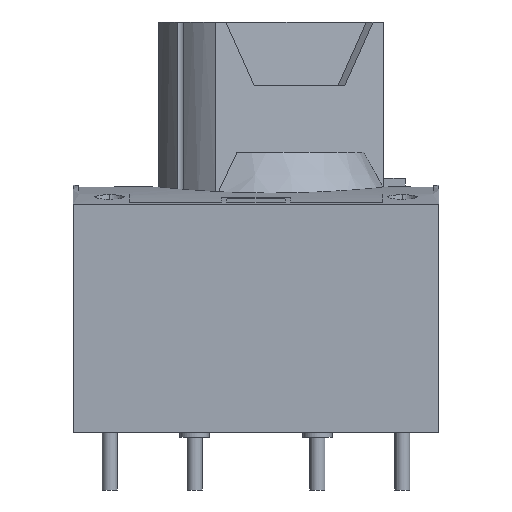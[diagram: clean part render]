
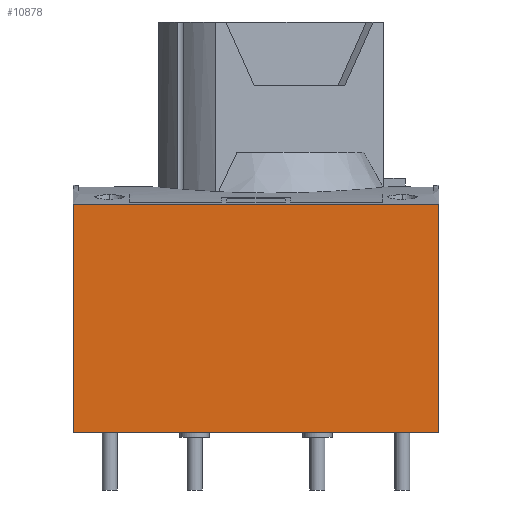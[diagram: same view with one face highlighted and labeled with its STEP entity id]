
A CAD part, front view. The second image highlights one B-rep face of the part: STEP entity #10878.
In plain terms, the highlighted planar face has unit normal (0, -1, 0).
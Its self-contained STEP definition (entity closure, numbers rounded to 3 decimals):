
#77=DIRECTION('',(-1.,0.,0.));
#78=VECTOR('',#77,74.5);
#79=CARTESIAN_POINT('',(74.5,0.,47.501));
#80=LINE('',#79,#78);
#84=DIRECTION('',(0.,0.,-1.));
#85=VECTOR('',#84,46.501);
#86=CARTESIAN_POINT('',(74.5,0.,47.501));
#87=LINE('',#86,#85);
#91=DIRECTION('',(1.,0.,0.));
#92=VECTOR('',#91,74.5);
#93=CARTESIAN_POINT('',(0.,0.,1.));
#94=LINE('',#93,#92);
#5681=DIRECTION('',(0.,0.,-1.));
#5682=VECTOR('',#5681,46.501);
#5683=CARTESIAN_POINT('',(0.,0.,47.501));
#5684=LINE('',#5683,#5682);
#9229=CARTESIAN_POINT('',(0.,0.,1.));
#9230=CARTESIAN_POINT('',(74.5,0.,1.));
#9231=VERTEX_POINT('',#9229);
#9232=VERTEX_POINT('',#9230);
#10381=CARTESIAN_POINT('',(74.5,0.,47.501));
#10382=CARTESIAN_POINT('',(0.,0.,47.501));
#10383=VERTEX_POINT('',#10381);
#10384=VERTEX_POINT('',#10382);
#10863=CARTESIAN_POINT('',(0.,0.,0.));
#10864=DIRECTION('',(0.,-1.,0.));
#10865=DIRECTION('',(1.,0.,0.));
#10866=AXIS2_PLACEMENT_3D('',#10863,#10864,#10865);
#10867=PLANE('',#10866);
#10869=ORIENTED_EDGE('',*,*,#10868,.F.);
#10871=ORIENTED_EDGE('',*,*,#10870,.T.);
#10873=ORIENTED_EDGE('',*,*,#10872,.F.);
#10875=ORIENTED_EDGE('',*,*,#10874,.F.);
#10876=EDGE_LOOP('',(#10869,#10871,#10873,#10875));
#10877=FACE_OUTER_BOUND('',#10876,.F.);
#10868=EDGE_CURVE('',#10383,#10384,#80,.T.);
#10870=EDGE_CURVE('',#10383,#9232,#87,.T.);
#10872=EDGE_CURVE('',#9231,#9232,#94,.T.);
#10874=EDGE_CURVE('',#10384,#9231,#5684,.T.);
#10878=ADVANCED_FACE('',(#10877),#10867,.T.);
